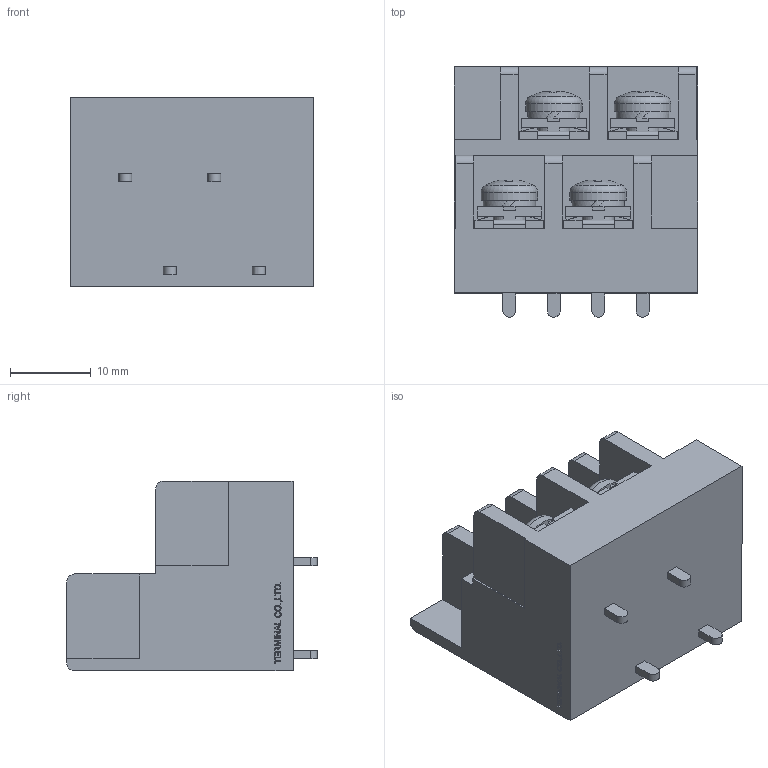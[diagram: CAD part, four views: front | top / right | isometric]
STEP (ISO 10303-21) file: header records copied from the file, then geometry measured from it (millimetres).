
FILE_DESCRIPTION(/* description */ ('Alibre Inc.'),/* implementation_level */ '2;1');
FILE_NAME(/* name */ 'export0',/* time_stamp */ '2016-08-05T11:37:32+09:00',/* author */ (''),/* organization */ (''),/* preprocessor_version */ 'ST-DEVELOPER v14',/* originating_system */ 'Alibre',/* authorisation */ '');
FILE_SCHEMA (('CONFIG_CONTROL_DESIGN'));
Length unit declared in the file: centimetre
Products named in the file (1): ID_1
Bounding box: 30.1 x 31 x 23.5 mm (x, y, z)
Volume: 12532.8 mm3; surface area: 6167.6 mm2
Topology: 1 solids, 49 shells, 1145 faces, 2987 edges, 1974 vertices
Faces by surface type: plane 874, bspline 208, cylinder 35, cone 16, torus 8, sphere 4
Full cylindrical faces by diameter (mm): 4 x4, 7 x4
Entity records: 33550 total; most frequent: CARTESIAN_POINT 7956, ORIENTED_EDGE 5966, DIRECTION 3588, EDGE_CURVE 2967, VECTOR 2267, LINE 2267, VERTEX_POINT 1970, EDGE_LOOP 1235
